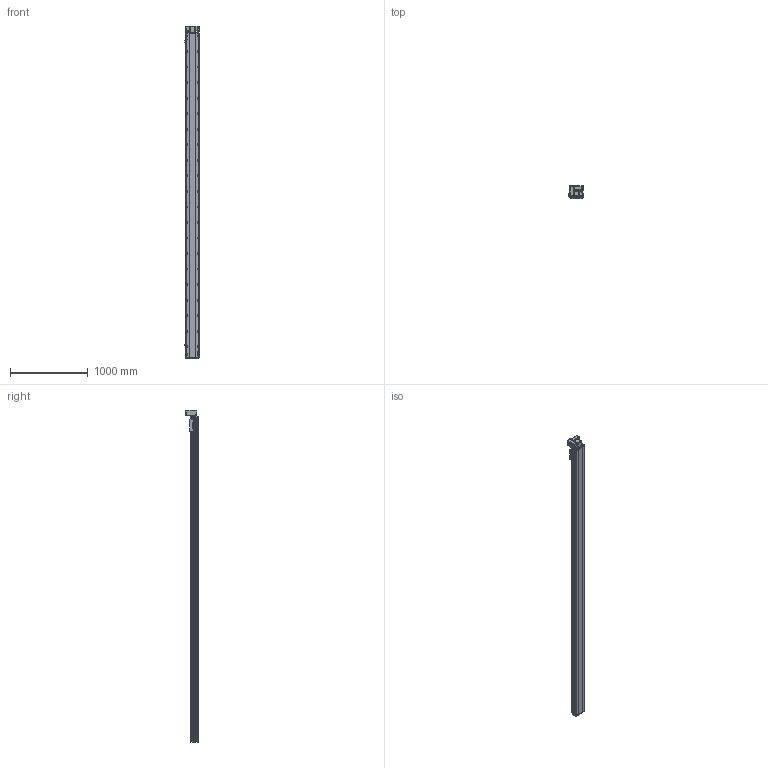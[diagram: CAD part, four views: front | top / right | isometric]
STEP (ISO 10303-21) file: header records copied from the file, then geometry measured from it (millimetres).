
FILE_DESCRIPTION (( 'STEP AP214' ), '1' );
FILE_NAME ('RTB17S-XX-3900-LW-M40-C4.STEP', '2025-12-11T07:27:57', ( '' ), ( '' ), 'SwSTEP 2.0', 'SolidWorks 2018', '' );
FILE_SCHEMA (( 'AUTOMOTIVE_DESIGN' ));
Length unit declared in the file: millimetre
Products named in the file (14): RTB17-R-011菁釱^RTB17S-XX-XX-LW-M40-C4; RTB14-L-005P--轴承塑胶压盖^RTB17S-LW-皮带座装配-400W_RTB17S-XX-XX-LW-M40-C4; RTB17S-L-014-T20--々湍釱^RTB17S-LW-々湍釱蚾饜-400W_RTB17S-XX-XX-LW-M40-C4; OMRON EE-SX672 传感器^RTB17S-XX-XX-LW-M40-C4; RTB14-L-018P^RTB17S-LW-々湍釱蚾饜-400W_RTB17S-XX-XX-LW-M40-C4; RTB17S-L-004佪裝蹟譫蟀諉釱^RTB17S-XX-XX-LW-M40-C4; 400W侜督萇儂^RTB17S-XX-XX-LW-M40-C4; RTB17S-LW-々湍釱蚾饜-400W^RTB17S-XX-XX-LW-M40-C4; RTB17S-L-001耜醱啣^RTB17S-XX-XX-LW-M40-C4; RTB17S-XX-3900-LW-M40-C4; RTB14-L-017P^RTB17S-LW-々湍釱蚾饜-400W_RTB17S-XX-XX-LW-M40-C4; RTH13-BL-012覜茼え俋离^RTB17S-XX-XX-LW-M40-C4; RTB14-L-008-M20--萇儂啣^RTB17S-LW-々湍釱蚾饜-400W_RTB17S-XX-XX-LW-M40-C4; RTB17S-L-007奻裔^RTB17S-XX-XX-LW-M40-C4
Assembly tree (16 placements, depth 3):
  RTB17S-XX-3900-LW-M40-C4
    RTB17-R-011菁釱^RTB17S-XX-XX-LW-M40-C4
    RTB17S-L-007奻裔^RTB17S-XX-XX-LW-M40-C4
    OMRON EE-SX672 传感器^RTB17S-XX-XX-LW-M40-C4  x3
    RTB17S-L-001耜醱啣^RTB17S-XX-XX-LW-M40-C4
    400W侜督萇儂^RTB17S-XX-XX-LW-M40-C4
    RTB17S-L-004佪裝蹟譫蟀諉釱^RTB17S-XX-XX-LW-M40-C4
    RTH13-BL-012覜茼え俋离^RTB17S-XX-XX-LW-M40-C4
    RTB17S-LW-々湍釱蚾饜-400W^RTB17S-XX-XX-LW-M40-C4
      RTB17S-L-014-T20--々湍釱^RTB17S-LW-々湍釱蚾饜-400W_RTB17S-XX-XX-LW-M40-C4
      RTB14-L-005P--轴承塑胶压盖^RTB17S-LW-皮带座装配-400W_RTB17S-XX-XX-LW-M40-C4
      RTB14-L-008-M20--萇儂啣^RTB17S-LW-々湍釱蚾饜-400W_RTB17S-XX-XX-LW-M40-C4
      RTB14-L-017P^RTB17S-LW-々湍釱蚾饜-400W_RTB17S-XX-XX-LW-M40-C4  x2
      RTB14-L-018P^RTB17S-LW-々湍釱蚾饜-400W_RTB17S-XX-XX-LW-M40-C4
Bounding box: 186 x 160.5 x 4272.5 mm (x, y, z)
Volume: 36020967.6 mm3; surface area: 4077909.2 mm2
Topology: 15 solids, 15 shells, 2445 faces, 6897 edges, 4509 vertices
Faces by surface type: plane 1098, cylinder 899, bspline 301, cone 139, torus 8
Entity records: 74153 total; most frequent: CARTESIAN_POINT 21302, ORIENTED_EDGE 10638, DIRECTION 9746, EDGE_CURVE 5319, VERTEX_POINT 3497, AXIS2_PLACEMENT_3D 3427, LINE 2892, VECTOR 2892
